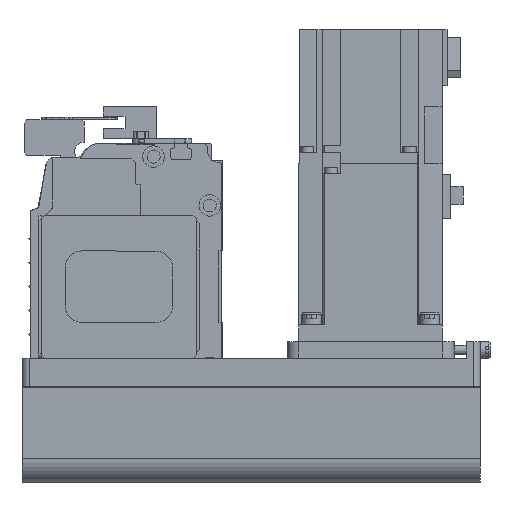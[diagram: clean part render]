
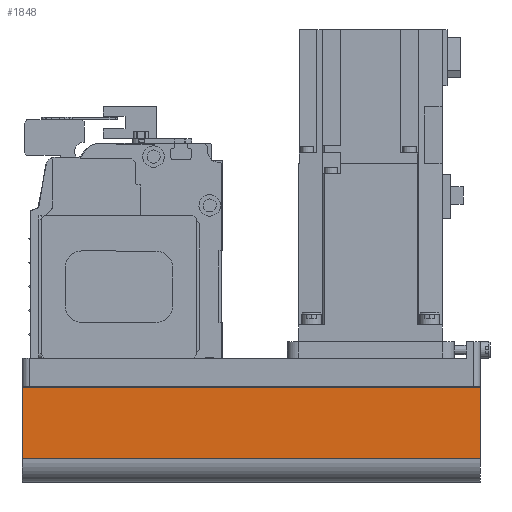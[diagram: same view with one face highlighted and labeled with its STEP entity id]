
A CAD part, left-side view. The second image highlights one B-rep face of the part: STEP entity #1848.
In plain terms, the highlighted planar face has unit normal (-1, 0, 0) as drawn and (0, 1, 0) by its records, which use the part's own axes.
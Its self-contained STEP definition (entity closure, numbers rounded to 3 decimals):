
#1848 = ADVANCED_FACE( '', ( #4014 ), #4015, .T. );
#4014 = FACE_OUTER_BOUND( '', #6502, .T. );
#4015 = PLANE( '', #6503 );
#6502 = EDGE_LOOP( '', ( #11483, #11484, #11485, #11486 ) );
#6503 = AXIS2_PLACEMENT_3D( '', #11487, #11488, #11489 );
#11483 = ORIENTED_EDGE( '', *, *, #14911, .F. );
#11484 = ORIENTED_EDGE( '', *, *, #15201, .F. );
#11485 = ORIENTED_EDGE( '', *, *, #15660, .T. );
#11486 = ORIENTED_EDGE( '', *, *, #13992, .T. );
#11487 = CARTESIAN_POINT( '', ( -192., 40., -42. ) );
#11488 = DIRECTION( '', ( 0., 1., 0. ) );
#11489 = DIRECTION( '', ( 0., 0., 1. ) );
#13992 = EDGE_CURVE( '', #16531, #16532, #16533, .T. );
#14911 = EDGE_CURVE( '', #18109, #16532, #18110, .T. );
#15201 = EDGE_CURVE( '', #18546, #18109, #18548, .T. );
#15660 = EDGE_CURVE( '', #18546, #16531, #19211, .T. );
#16531 = VERTEX_POINT( '', #20283 );
#16532 = VERTEX_POINT( '', #20284 );
#16533 = LINE( '', #20285, #20286 );
#18109 = VERTEX_POINT( '', #22356 );
#18110 = LINE( '', #22357, #22358 );
#18546 = VERTEX_POINT( '', #22949 );
#18548 = LINE( '', #22951, #22952 );
#19211 = LINE( '', #23847, #23848 );
#20283 = CARTESIAN_POINT( '', ( -192., 40., -12.1 ) );
#20284 = CARTESIAN_POINT( '', ( 0., 40., -12.1 ) );
#20285 = CARTESIAN_POINT( '', ( -192., 40., -12.1 ) );
#20286 = VECTOR( '', #25227, 1000. );
#22356 = CARTESIAN_POINT( '', ( 0., 40., -42. ) );
#22357 = CARTESIAN_POINT( '', ( 0., 40., -42. ) );
#22358 = VECTOR( '', #26469, 1000. );
#22949 = CARTESIAN_POINT( '', ( -192., 40., -42. ) );
#22951 = CARTESIAN_POINT( '', ( -192., 40., -42. ) );
#22952 = VECTOR( '', #26832, 1000. );
#23847 = CARTESIAN_POINT( '', ( -192., 40., -42. ) );
#23848 = VECTOR( '', #27344, 1000. );
#25227 = DIRECTION( '', ( 1., 0., 0. ) );
#26469 = DIRECTION( '', ( 0., 0., 1. ) );
#26832 = DIRECTION( '', ( 1., 0., 0. ) );
#27344 = DIRECTION( '', ( 0., 0., 1. ) );
